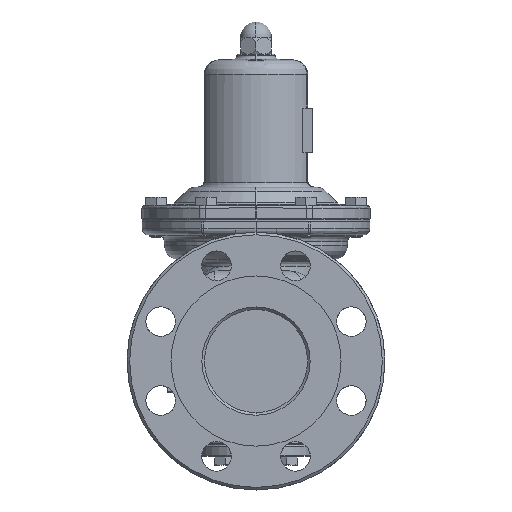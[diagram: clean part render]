
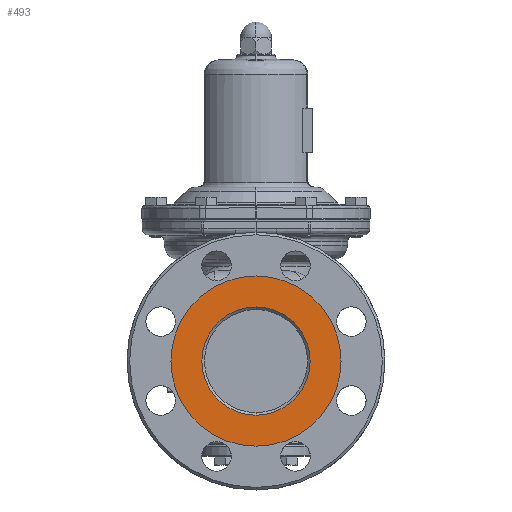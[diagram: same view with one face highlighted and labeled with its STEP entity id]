
A CAD part, left-side view. The second image highlights one B-rep face of the part: STEP entity #493.
In plain terms, the highlighted planar face has unit normal (-1, 0, 0).
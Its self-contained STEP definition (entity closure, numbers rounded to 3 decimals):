
#493=ADVANCED_FACE('',(#2087,#2088),#2086,.T.);
#2086=PLANE('',#9138);
#2087=FACE_OUTER_BOUND('',#9139,.T.);
#2088=FACE_BOUND('',#9140,.T.);
#9135=CARTESIAN_POINT('',(-118.6,-124.315,-142.));
#9136=DIRECTION('',(-1.,0.,0.));
#9137=DIRECTION('',(0.,0.,1.));
#9138=AXIS2_PLACEMENT_3D('',#9135,#9136,#9137);
#9139=EDGE_LOOP('',(#15601,#15602));
#9140=EDGE_LOOP('',(#15603,#15604));
#15601=ORIENTED_EDGE('',*,*,#18638,.T.);
#15602=ORIENTED_EDGE('',*,*,#18639,.T.);
#15603=ORIENTED_EDGE('',*,*,#18640,.F.);
#15604=ORIENTED_EDGE('',*,*,#18641,.F.);
#18638=EDGE_CURVE('',#22775,#22776,#22777,.T.);
#18639=EDGE_CURVE('',#22776,#22775,#22783,.T.);
#18640=EDGE_CURVE('',#22789,#22790,#22791,.T.);
#18641=EDGE_CURVE('',#22790,#22789,#22797,.T.);
#22775=VERTEX_POINT('',#33831);
#22776=VERTEX_POINT('',#33832);
#22777=CIRCLE('',#33836,66.);
#22783=CIRCLE('',#33840,66.);
#22789=VERTEX_POINT('',#33841);
#22790=VERTEX_POINT('',#33842);
#22791=CIRCLE('',#33846,42.);
#22797=CIRCLE('',#33850,42.);
#33831=CARTESIAN_POINT('',(-118.6,0.,66.));
#33832=CARTESIAN_POINT('',(-118.6,0.,-66.));
#33833=CARTESIAN_POINT('',(-118.6,0.,0.));
#33834=DIRECTION('',(-1.,0.,0.));
#33835=DIRECTION('',(0.,0.,1.));
#33836=AXIS2_PLACEMENT_3D('',#33833,#33834,#33835);
#33837=CARTESIAN_POINT('',(-118.6,0.,0.));
#33838=DIRECTION('',(-1.,0.,0.));
#33839=DIRECTION('',(0.,0.,1.));
#33840=AXIS2_PLACEMENT_3D('',#33837,#33838,#33839);
#33841=CARTESIAN_POINT('',(-118.6,0.,-42.));
#33842=CARTESIAN_POINT('',(-118.6,0.,42.));
#33843=CARTESIAN_POINT('',(-118.6,0.,0.));
#33844=DIRECTION('',(-1.,0.,0.));
#33845=DIRECTION('',(0.,0.,1.));
#33846=AXIS2_PLACEMENT_3D('',#33843,#33844,#33845);
#33847=CARTESIAN_POINT('',(-118.6,0.,0.));
#33848=DIRECTION('',(-1.,0.,0.));
#33849=DIRECTION('',(0.,0.,1.));
#33850=AXIS2_PLACEMENT_3D('',#33847,#33848,#33849);
